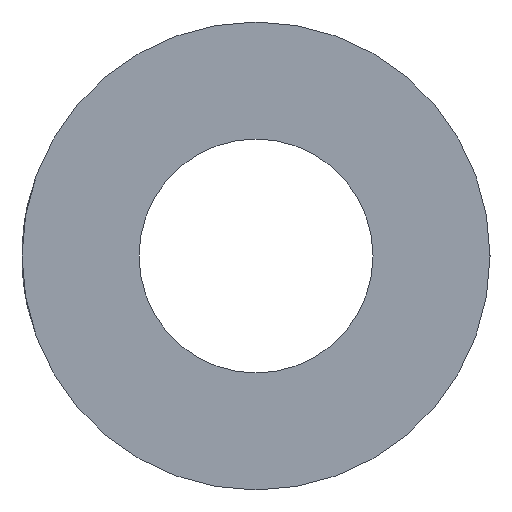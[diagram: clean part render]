
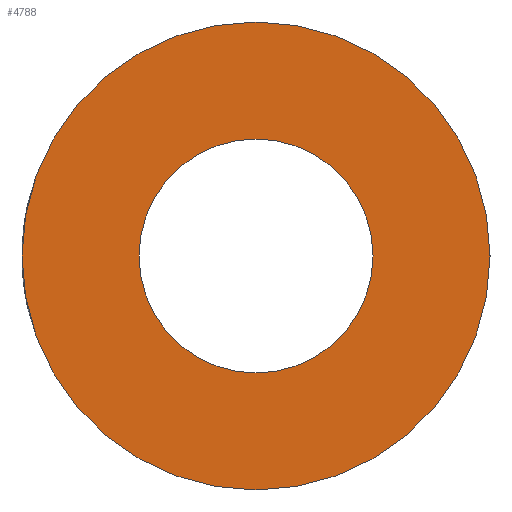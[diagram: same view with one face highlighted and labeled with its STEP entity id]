
A CAD part, left-side view. The second image highlights one B-rep face of the part: STEP entity #4788.
In plain terms, the highlighted planar face has unit normal (-1, 0, 0).
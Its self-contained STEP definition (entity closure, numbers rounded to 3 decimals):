
#112=PLANE('',#5159);
#514=CIRCLE('',#5158,6.);
#515=CIRCLE('',#5160,3.);
#811=ORIENTED_EDGE('',*,*,#2253,.T.);
#812=ORIENTED_EDGE('',*,*,#2252,.F.);
#2252=EDGE_CURVE('',#2973,#2973,#514,.T.);
#2253=EDGE_CURVE('',#2974,#2974,#515,.T.);
#2973=VERTEX_POINT('',#7365);
#2974=VERTEX_POINT('',#7368);
#4074=EDGE_LOOP('',(#811));
#4075=EDGE_LOOP('',(#812));
#4425=FACE_BOUND('',#4074,.T.);
#4426=FACE_BOUND('',#4075,.T.);
#4788=ADVANCED_FACE('',(#4425,#4426),#112,.F.);
#5158=AXIS2_PLACEMENT_3D('',#7364,#5642,#5643);
#5159=AXIS2_PLACEMENT_3D('',#7366,#5644,#5645);
#5160=AXIS2_PLACEMENT_3D('',#7367,#5646,#5647);
#5642=DIRECTION('',(1.,0.,0.));
#5643=DIRECTION('',(0.,0.,-1.));
#5644=DIRECTION('',(1.,0.,0.));
#5645=DIRECTION('',(0.,0.,-1.));
#5646=DIRECTION('',(1.,0.,0.));
#5647=DIRECTION('',(0.,0.,-1.));
#7364=CARTESIAN_POINT('',(-9.5,0.,0.));
#7365=CARTESIAN_POINT('',(-9.5,0.,-6.));
#7366=CARTESIAN_POINT('',(-9.5,0.,0.));
#7367=CARTESIAN_POINT('',(-9.5,0.,0.));
#7368=CARTESIAN_POINT('',(-9.5,0.,-3.));
